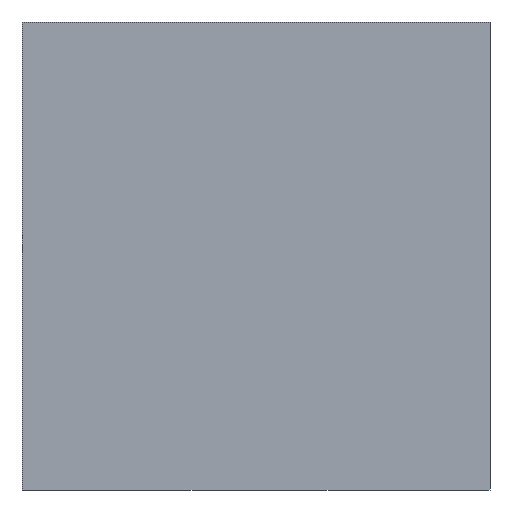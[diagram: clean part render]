
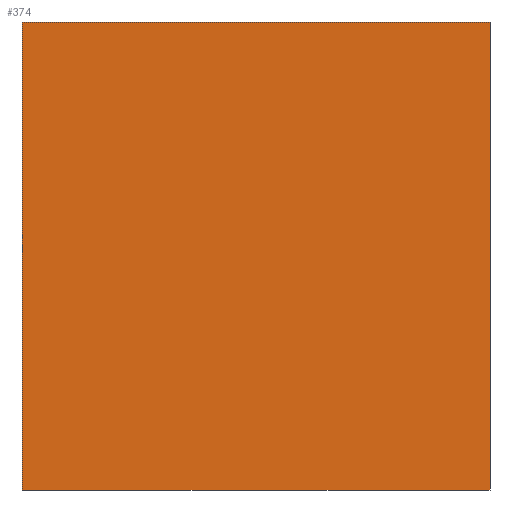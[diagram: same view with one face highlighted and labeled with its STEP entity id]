
A CAD part, left-side view. The second image highlights one B-rep face of the part: STEP entity #374.
In plain terms, the highlighted planar face has unit normal (-1, 0, 0).
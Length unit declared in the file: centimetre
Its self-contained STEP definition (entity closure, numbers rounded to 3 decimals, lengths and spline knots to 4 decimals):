
#17 = CARTESIAN_POINT ( 'NONE',  ( 0., 1000., 0. ) ) ;
#19 = DIRECTION ( 'NONE',  ( 0., 0., -1. ) ) ;
#39 = VECTOR ( 'NONE', #124, 100. ) ;
#46 = LINE ( 'NONE', #123, #39 ) ;
#67 = EDGE_CURVE ( 'NONE', #416, #75, #188, .T. ) ;
#75 = VERTEX_POINT ( 'NONE', #129 ) ;
#81 = CARTESIAN_POINT ( 'NONE',  ( 0., 1000., 1000. ) ) ;
#94 = VERTEX_POINT ( 'NONE', #301 ) ;
#100 = VECTOR ( 'NONE', #19, 100. ) ;
#109 = CARTESIAN_POINT ( 'NONE',  ( 0., 1000., 1000. ) ) ;
#123 = CARTESIAN_POINT ( 'NONE',  ( 0., 1000., 1000. ) ) ;
#124 = DIRECTION ( 'NONE',  ( 0., -1., 0. ) ) ;
#129 = CARTESIAN_POINT ( 'NONE',  ( 0., 0., 0. ) ) ;
#154 = CARTESIAN_POINT ( 'NONE',  ( 0., 0., 1000. ) ) ;
#160 = DIRECTION ( 'NONE',  ( 0., 0., -1. ) ) ;
#181 = AXIS2_PLACEMENT_3D ( 'NONE', #81, #217, #160 ) ;
#188 = LINE ( 'NONE', #197, #100 ) ;
#191 = PLANE ( 'NONE',  #181 ) ;
#197 = CARTESIAN_POINT ( 'NONE',  ( 0., 0., 1000. ) ) ;
#203 = ORIENTED_EDGE ( 'NONE', *, *, #452, .T. ) ;
#217 = DIRECTION ( 'NONE',  ( 1., 0., 0. ) ) ;
#219 = VERTEX_POINT ( 'NONE', #109 ) ;
#225 = LINE ( 'NONE', #229, #298 ) ;
#229 = CARTESIAN_POINT ( 'NONE',  ( 0., 1000., 1000. ) ) ;
#254 = FACE_OUTER_BOUND ( 'NONE', #380, .T. ) ;
#271 = ORIENTED_EDGE ( 'NONE', *, *, #357, .F. ) ;
#280 = VECTOR ( 'NONE', #363, 100. ) ;
#298 = VECTOR ( 'NONE', #370, 100. ) ;
#301 = CARTESIAN_POINT ( 'NONE',  ( 0., 1000., 0. ) ) ;
#325 = ORIENTED_EDGE ( 'NONE', *, *, #67, .F. ) ;
#357 = EDGE_CURVE ( 'NONE', #219, #416, #46, .T. ) ;
#359 = LINE ( 'NONE', #17, #280 ) ;
#363 = DIRECTION ( 'NONE',  ( 0., -1., 0. ) ) ;
#370 = DIRECTION ( 'NONE',  ( 0., 0., -1. ) ) ;
#374 = ADVANCED_FACE ( 'NONE', ( #254 ), #191, .F. ) ;
#380 = EDGE_LOOP ( 'NONE', ( #449, #325, #271, #203 ) ) ;
#409 = EDGE_CURVE ( 'NONE', #94, #75, #359, .T. ) ;
#416 = VERTEX_POINT ( 'NONE', #154 ) ;
#449 = ORIENTED_EDGE ( 'NONE', *, *, #409, .T. ) ;
#452 = EDGE_CURVE ( 'NONE', #219, #94, #225, .T. ) ;
